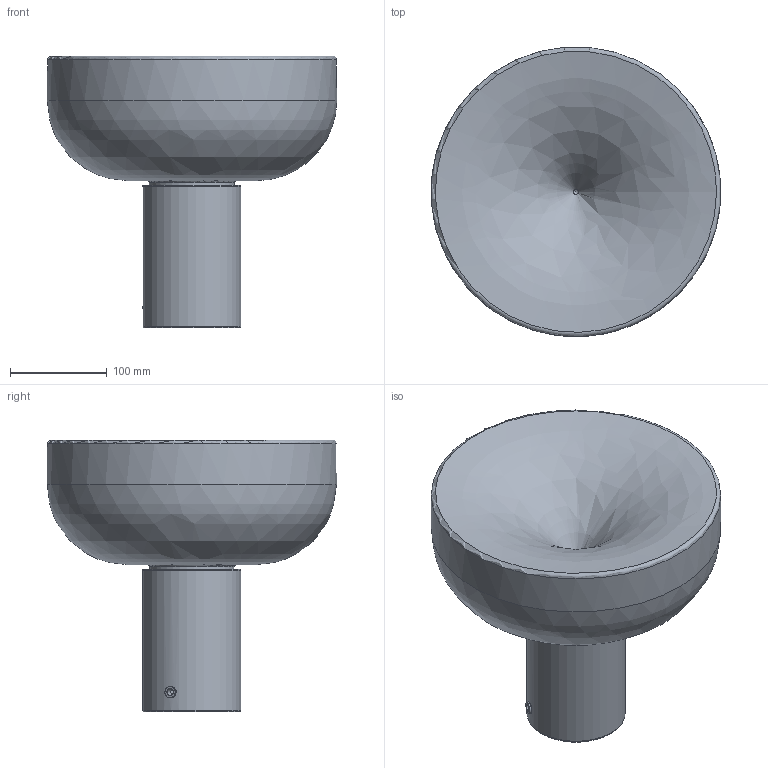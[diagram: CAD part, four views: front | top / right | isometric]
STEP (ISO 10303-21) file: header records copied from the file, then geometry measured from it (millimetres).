
FILE_DESCRIPTION(/* description */ ('AELLA TAVOLO T30'),/* implementation_level */ '2;1');
FILE_NAME(/* name */ '00500MT2LD0 - AELLA T30 - SEMPLIFICATA.stp',/* time_stamp */ '2023-05-03T12:33:28+02:00',/* author */ ('davide.turci'),/* organization */ (''),/* preprocessor_version */ 'ST-DEVELOPER v19.2',/* originating_system */ 'Autodesk Inventor 2023',/* authorisation */ '');
FILE_SCHEMA (('AUTOMOTIVE_DESIGN { 1 0 10303 214 3 1 1 }'));
Length unit declared in the file: millimetre
Products named in the file (13): 00500MT2LD0 - AELLA T30; 00500C028; 00500C028_1; PERNO A PRESSIONE M4 H25 TIPO SPECIALINSERT CP25 0 040 12; 00500C025; 00500C025_1; DISTANZIALE PRESSIONE M3 H8 FIL. PASS. TIPO SPECIALINSERT DP08 1 030 
12; 00500C027; B002; 00500V003-A; 00500C021-A; VITE TESTA CILINDRICA STEAB 5074-05 M3X0,5 H6; PIEDINO Ø8 H2.5 - STEAB 6500-8 - TIPO 3 - nero
Assembly tree (17 placements, depth 3):
  00500MT2LD0 - AELLA T30
    00500C028
      00500C028_1
      PERNO A PRESSIONE M4 H25 TIPO SPECIALINSERT CP25 0 040 12  x2
    00500C025
      00500C025_1
      DISTANZIALE PRESSIONE M3 H8 FIL. PASS. TIPO SPECIALINSERT DP08 1 030 
12  x2
    00500C027
    B002
    00500V003-A
    00500C021-A
    VITE TESTA CILINDRICA STEAB 5074-05 M3X0,5 H6  x2
    PIEDINO Ø8 H2.5 - STEAB 6500-8 - TIPO 3 - nero  x3
Bounding box: 299.82 x 299.55 x 281.49 mm (x, y, z)
Volume: 1047337.4 mm3; surface area: 600043.1 mm2
Topology: 15 solids, 15 shells, 154 faces, 321 edges, 212 vertices
Faces by surface type: plane 65, cylinder 63, torus 14, cone 6, bspline 4, sphere 2
Full cylindrical faces by diameter (mm): 2.459 x2, 3 x2, 3.5 x5, 4 x4, 4.8 x3, 5 x3, 5.38 x2, 5.4 x2, 5.5 x2, 6 x2, 7 x1, 8 x3, 10 x1, 10.5 x3, 12 x1, 72 x1, 77 x1, 88 x1, 93.5 x1, 96.5 x1, 97.5 x1, 100.5 x1, 101.5 x2, 292 x1, 300 x1
Entity records: 3956 total; most frequent: CARTESIAN_POINT 714, DIRECTION 660, ORIENTED_EDGE 478, AXIS2_PLACEMENT_3D 289, EDGE_CURVE 239, VERTEX_POINT 160, EDGE_LOOP 159, CIRCLE 148
